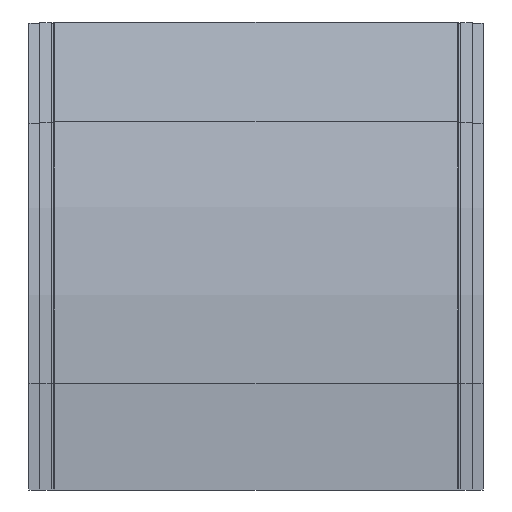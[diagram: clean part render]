
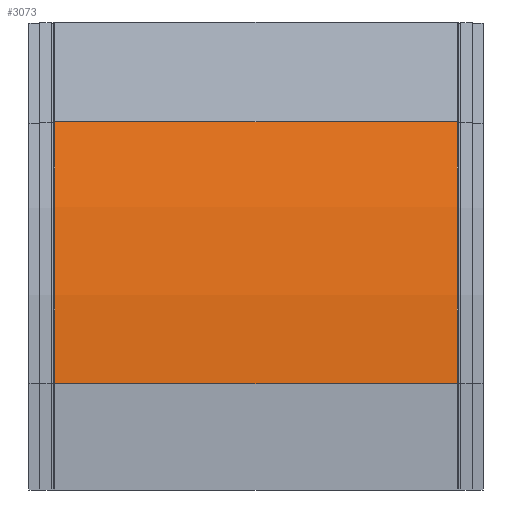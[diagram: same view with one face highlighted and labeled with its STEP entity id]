
A CAD part, front view. The second image highlights one B-rep face of the part: STEP entity #3073.
In plain terms, the highlighted cylindrical face has radius 576.7 mm (diameter 1153.4 mm), a partial arc.
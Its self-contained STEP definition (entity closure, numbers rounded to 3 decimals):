
#48 = EDGE_CURVE ( 'NONE', #1429, #331, #1842, .T. ) ;
#79 = CIRCLE ( 'NONE', #2338, 576.7 ) ;
#186 = AXIS2_PLACEMENT_3D ( 'NONE', #2522, #255, #2036 ) ;
#197 = DIRECTION ( 'NONE',  ( 1., 0., 0. ) ) ;
#255 = DIRECTION ( 'NONE',  ( -1., 0., 0. ) ) ;
#331 = VERTEX_POINT ( 'NONE', #1554 ) ;
#359 = AXIS2_PLACEMENT_3D ( 'NONE', #3323, #3015, #3298 ) ;
#413 = EDGE_CURVE ( 'NONE', #3324, #1220, #2559, .T. ) ;
#474 = CIRCLE ( 'NONE', #359, 576.7 ) ;
#491 = DIRECTION ( 'NONE',  ( 0., 0., 1. ) ) ;
#630 = VECTOR ( 'NONE', #1586, 1000. ) ;
#782 = CYLINDRICAL_SURFACE ( 'NONE', #186, 576.7 ) ;
#1088 = EDGE_LOOP ( 'NONE', ( #1269, #2663, #2298, #2293 ) ) ;
#1099 = CARTESIAN_POINT ( 'NONE',  ( 151.4, -41.921, 277.243 ) ) ;
#1220 = VERTEX_POINT ( 'NONE', #1339 ) ;
#1263 = VECTOR ( 'NONE', #197, 1000. ) ;
#1269 = ORIENTED_EDGE ( 'NONE', *, *, #48, .T. ) ;
#1339 = CARTESIAN_POINT ( 'NONE',  ( 151.4, -41.921, 277.243 ) ) ;
#1429 = VERTEX_POINT ( 'NONE', #2472 ) ;
#1554 = CARTESIAN_POINT ( 'NONE',  ( 151.4, -76.7, 80. ) ) ;
#1586 = DIRECTION ( 'NONE',  ( 1., 0., 0. ) ) ;
#1663 = DIRECTION ( 'NONE',  ( -1., 0., 0. ) ) ;
#1713 = CARTESIAN_POINT ( 'NONE',  ( -151.4, -41.921, 277.243 ) ) ;
#1842 = LINE ( 'NONE', #2205, #1263 ) ;
#1899 = FACE_OUTER_BOUND ( 'NONE', #1088, .T. ) ;
#2036 = DIRECTION ( 'NONE',  ( 0., 0., 1. ) ) ;
#2205 = CARTESIAN_POINT ( 'NONE',  ( 151.4, -76.7, 80. ) ) ;
#2293 = ORIENTED_EDGE ( 'NONE', *, *, #3039, .F. ) ;
#2298 = ORIENTED_EDGE ( 'NONE', *, *, #413, .F. ) ;
#2338 = AXIS2_PLACEMENT_3D ( 'NONE', #3094, #1663, #491 ) ;
#2472 = CARTESIAN_POINT ( 'NONE',  ( -151.4, -76.7, 80. ) ) ;
#2522 = CARTESIAN_POINT ( 'NONE',  ( 0., 500., 80. ) ) ;
#2559 = LINE ( 'NONE', #1099, #630 ) ;
#2663 = ORIENTED_EDGE ( 'NONE', *, *, #3193, .T. ) ;
#3015 = DIRECTION ( 'NONE',  ( -1., 0., 0. ) ) ;
#3039 = EDGE_CURVE ( 'NONE', #1429, #3324, #474, .T. ) ;
#3073 = ADVANCED_FACE ( 'NONE', ( #1899 ), #782, .T. ) ;
#3094 = CARTESIAN_POINT ( 'NONE',  ( 151.4, 500., 80. ) ) ;
#3193 = EDGE_CURVE ( 'NONE', #331, #1220, #79, .T. ) ;
#3298 = DIRECTION ( 'NONE',  ( 0., 0., 1. ) ) ;
#3323 = CARTESIAN_POINT ( 'NONE',  ( -151.4, 500., 80. ) ) ;
#3324 = VERTEX_POINT ( 'NONE', #1713 ) ;
